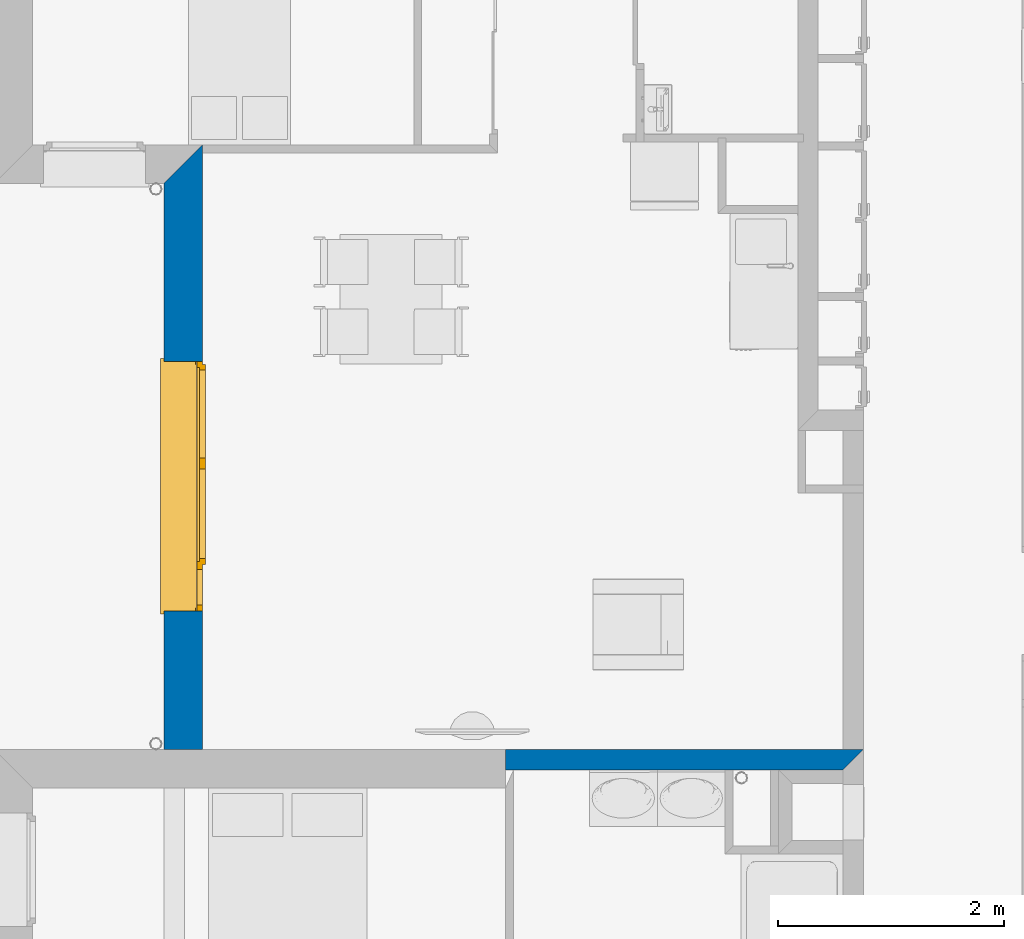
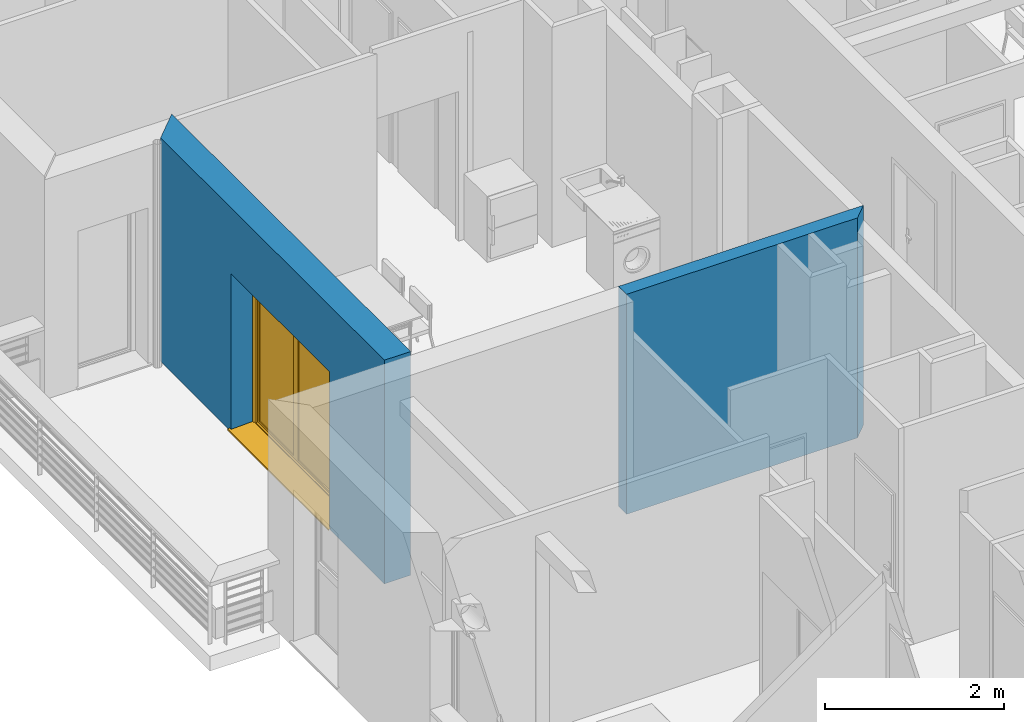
# One storey, part 21 of 165: 2 walls, 1 window, 1 opening.
"""IFC2X3 building model written with IfcOpenShell, lengths in millimetres."""

from ifc_helpers import new_model, entity, si_unit, converted_unit, derived_unit, money_unit, direction, frame, origin_with_axes, place, context, subcontext, project, spatial, polyline, outline, extrude, open_shell, faceted_brep, surface_model, source, transform, mapped, material, layer, layer_set, layer_usage, type_object, element, fill, save


model = new_model("IFC2X3")

# Units and contexts
model_context = context("Model", 3, precision=0.01, world=origin_with_axes(), true_north=direction((0.0, 1.0)))
body_context = subcontext(model_context, "Body", "Model", "MODEL_VIEW")
ifc_project = project(units=[si_unit("LENGTHUNIT", "METRE", prefix="MILLI"), si_unit("AREAUNIT", "SQUARE_METRE"), si_unit("VOLUMEUNIT", "CUBIC_METRE"), converted_unit("PLANEANGLEUNIT", "DEGREE", entity("IfcPlaneAngleMeasure", 0.0174532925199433), si_unit("PLANEANGLEUNIT", "RADIAN"), dimensions=[0, 0, 0, 0, 0, 0, 0]), money_unit("USD"), converted_unit("TIMEUNIT", "Year", entity("IfcTimeMeasure", 31557600.0), si_unit("TIMEUNIT", "SECOND"), dimensions=[0, 0, 1, 0, 0, 0, 0]), si_unit("MASSUNIT", "GRAM", prefix="KILO"), si_unit("THERMODYNAMICTEMPERATUREUNIT", "DEGREE_CELSIUS"), si_unit("LUMINOUSINTENSITYUNIT", "LUMEN"), si_unit("ENERGYUNIT", "JOULE", prefix="MEGA"), derived_unit("THERMALCONDUCTANCEUNIT", [(si_unit("POWERUNIT", "WATT"), 1), (si_unit("LENGTHUNIT", "METRE"), -1), (si_unit("THERMODYNAMICTEMPERATUREUNIT", "KELVIN"), -1)]), derived_unit("SPECIFICHEATCAPACITYUNIT", [(si_unit("ENERGYUNIT", "JOULE"), 1), (si_unit("MASSUNIT", "GRAM", prefix="KILO"), -1), (si_unit("THERMODYNAMICTEMPERATUREUNIT", "KELVIN"), -1)]), derived_unit("MASSDENSITYUNIT", [(si_unit("MASSUNIT", "GRAM", prefix="KILO"), 1), (si_unit("VOLUMEUNIT", "CUBIC_METRE"), -1)])], contexts=[model_context])

# Site, building, storey
site_placement = place(None, origin_with_axes())
site = spatial("IfcSite", under=ifc_project, at=site_placement, Name="Site", CompositionType="ELEMENT")
building_placement = place(site_placement, origin_with_axes())
building = spatial("IfcBuilding", under=site, at=building_placement, Name="Bâtiment", CompositionType="ELEMENT")
storey_placement = place(building_placement, frame((0.0, 0.0, 8500.0), z_axis=(0.0, 0.0, 1.0), x_axis=(1.0, 0.0, 0.0)))
storey = spatial("IfcBuildingStorey", under=building, at=storey_placement, Name="Etage 2", CompositionType="ELEMENT", Elevation=8500.0)

# Wall
ifc_material_1 = material(Name="Parpaing 314940890")
ifc_layer_1 = layer(ifc_material_1, 180.0, ventilated="UNKNOWN")
ifc_layer_set_1 = layer_set([ifc_layer_1], Name="Beton  18 0018356637")
ifc_layer_usage_1 = layer_usage(ifc_layer_set_1, "AXIS2", "NEGATIVE", 0.0)
wall_type_1 = type_object("IfcWallType", Name="Beton  18 0018356637 180", PredefinedType="NOTDEFINED")
wall_1_placement = place(storey_placement, frame((2221152.351167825, -644016.3764661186, 0.0), z_axis=(0.0, 0.0, 1.0), x_axis=(0.9999999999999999, 1.891933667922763e-08, 0.0)))
element("IfcWallStandardCase", 1, at=wall_1_placement, inside=storey, type_object=wall_type_1, material=ifc_layer_usage_1, Name="Mur-142", context=body_context, shape_type="SweptSolid", body=[
    extrude(outline(polyline([(-5.654783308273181e-07, -180.0000000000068), (2979.967185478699, -179.9999999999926), (3159.967188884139, 0.0), (-1.13686837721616e-10, 0.0), (-5.654783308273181e-07, -180.0000000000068)])), origin_with_axes(), (0.0, 0.0, 1.0), 3000.0),
])

# Wall, opening, window
ifc_material_2 = material(Name="Parpaing 312445824")
ifc_layer_2 = layer(ifc_material_2, 180.0, ventilated="UNKNOWN")
ifc_material_3 = material(Name="Isolant styromousse 301821074")
ifc_layer_3 = layer(ifc_material_3, 160.0, ventilated="UNKNOWN")
ifc_layer_set_2 = layer_set([ifc_layer_2, ifc_layer_3], Name="isol int 18+16 0018356637")
ifc_layer_usage_2 = layer_usage(ifc_layer_set_2, "AXIS2", "POSITIVE", 0.0)
wall_type_2 = type_object("IfcWallType", Name="isol int 18+16 0018356637 340", PredefinedType="NOTDEFINED")
wall_2_placement = place(storey_placement, frame((2218134.314050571, -639016.8076992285, 0.0), z_axis=(0.0, 0.0, 1.0), x_axis=(-1.614254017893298e-05, -0.9999999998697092, 0.0)))
wall_2 = element("IfcWallStandardCase", 2, at=wall_2_placement, inside=storey, type_object=wall_type_2, material=ifc_layer_usage_2, Name="Mur-143", context=body_context, shape_type="SweptSolid", body=[
    extrude(outline(polyline([(0.0, 0.0), (4999.568805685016, 0.0), (4999.563312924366, 340.0000000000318), (-340.0054885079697, 339.9999999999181), (0.0, 0.0)])), origin_with_axes(), (0.0, 0.0, 1.0), 3050.0),
])
opening_placement = place(wall_2_placement, frame((2673.994690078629, -1.13686837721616e-10, 0.0), z_axis=(0.0, 0.0, 1.0), x_axis=(1.0, 0.0, 0.0)))
opening = element("IfcOpeningElement", 3, at=opening_placement, cuts=wall_2, Name="Fen-133", context=body_context, shape_type="Brep", body=[
    faceted_brep([(-1100.000000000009, 290.000000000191, 2150.0), (-1100.000000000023, 341.080705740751, 2150.0), (-1100.000000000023, 341.080705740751, 0.0), (-1100.000000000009, 290.000000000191, 0.0), (-1100.000000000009, 280.0000000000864, 2150.0), (-1100.000000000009, 280.0000000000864, 2400.0), (-1100.000000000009, 530.0000000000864, 2400.0), (-1100.000000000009, 530.0000000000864, 2150.0), (1099.99999999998, 341.0807057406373, 2150.0), (1099.99999999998, 341.0807057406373, 0.0), (1099.999999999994, 290.0000000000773, 0.0), (1099.999999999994, -1.080705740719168, 0.0), (-1100.000000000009, -1.080705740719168, 0.0), (-1100.000000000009, -1.080705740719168, 2150.0), (1099.999999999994, 280.0000000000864, 2150.0), (1099.999999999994, 280.0000000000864, 2400.0), (1099.999999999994, 530.0000000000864, 2400.0), (1099.999999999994, 530.0000000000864, 2150.0), (1099.999999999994, 290.0000000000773, 2150.0), (1099.999999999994, -1.080705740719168, 2150.0)], [[[0, 1, 2, 3]], [[1, 0, 4, 5, 6, 7]], [[1, 8, 9, 2]], [[10, 11, 12, 3, 2, 9]], [[4, 0, 3, 12, 13]], [[4, 14, 15, 5]], [[15, 16, 6, 5]], [[16, 17, 7, 6]], [[8, 1, 7, 17]], [[8, 18, 10, 9]], [[18, 14, 19, 11, 10]], [[13, 12, 11, 19]], [[14, 4, 13, 19]], [[18, 8, 17, 16, 15, 14]]]),
])
window_style = type_object("IfcWindowStyle", Name="Fenêtre châssis double variable 27", ConstructionType="NOTDEFINED", OperationType="TRIPLE_PANEL_VERTICAL", ParameterTakesPrecedence=False, Sizeable=False)
shared_shape = source(origin_with_axes(), body_context, "Body", "SurfaceModel", [
    surface_model("IfcShellBasedSurfaceModel", [(1100.0, -51.0, 40.00000000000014), (1100.0, -51.0, 50.00000000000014), (-1100.0, -51.0, 50.0), (-1100.0, -51.0, 40.0), (1130.0, -369.9999999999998, 28.96551724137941), (1130.0, -339.9999999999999, 30.00324289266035), (1100.0, -339.9999999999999, 30.00324289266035), (-1100.0, -339.9999999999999, 30.00324289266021), (-1130.0, -339.9999999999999, 30.00324289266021), (-1130.0, -369.9999999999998, 28.96551724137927), (1130.0, -369.9999999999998, 8.965517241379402), (-1130.0, -369.9999999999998, 8.965517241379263), (1130.0, -359.9999999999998, 18.9655172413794), (-1130.0, -359.9999999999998, 18.96551724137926)], [open_shell([[[0, 1, 2, 3]], [[4, 5, 6, 0, 3, 7, 8, 9]], [[10, 4, 9, 11]], [[12, 10, 11, 13]]])]),
    faceted_brep([(-1100.0, -60.0, 2400.0), (-1097.0, -60.0, 2400.0), (-1097.0, 189.9999999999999, 2400.0), (-1100.0, 189.9999999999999, 2400.0), (-1100.0, -60.0, 2150.0), (-1097.0, -60.0, 2150.0), (-1097.0, 189.9999999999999, 2150.0), (-1100.0, 189.9999999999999, 2150.0)], [[[0, 1, 2, 3]], [[4, 5, 1, 0]], [[1, 5, 6, 2]], [[3, 2, 6, 7]], [[0, 3, 7, 4]], [[7, 6, 5, 4]]]),
    faceted_brep([(1097.0, -59.99999999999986, 2400.0), (1100.0, -59.99999999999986, 2400.0), (1100.0, 190.0000000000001, 2400.0), (1097.0, 190.0000000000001, 2400.0), (1097.0, -59.99999999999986, 2150.0), (1100.0, -59.99999999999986, 2150.0), (1100.0, 190.0000000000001, 2150.0), (1097.0, 190.0000000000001, 2150.0)], [[[0, 1, 2, 3]], [[4, 5, 1, 0]], [[1, 5, 6, 2]], [[3, 2, 6, 7]], [[0, 3, 7, 4]], [[7, 6, 5, 4]]]),
    faceted_brep([(-1097.0, -59.99999999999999, 2150.0), (1097.0, -59.99999999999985, 2150.0), (1097.0, -59.99999999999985, 2400.0), (-1097.0, -59.99999999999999, 2400.0), (-1097.0, -56.99999999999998, 2150.0), (1097.0, -56.99999999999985, 2150.0), (1097.0, -56.99999999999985, 2397.0), (1097.0, 187.0000000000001, 2397.0), (1097.0, 187.0000000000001, 2153.0), (1097.0, -37.99999999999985, 2153.0), (1097.0, -37.99999999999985, 2150.0), (1097.0, 190.0000000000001, 2150.0), (1097.0, 190.0000000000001, 2400.0), (-1097.0, 189.9999999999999, 2400.0), (-1097.0, 189.9999999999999, 2150.0), (-1097.0, -37.99999999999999, 2150.0), (-1097.0, -37.99999999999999, 2153.0), (-1097.0, 187.0, 2153.0), (-1097.0, 187.0, 2397.0), (-1097.0, -56.99999999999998, 2397.0)], [[[0, 1, 2, 3]], [[4, 5, 1, 0]], [[1, 5, 6, 7, 8, 9, 10, 11, 12, 2]], [[3, 2, 12, 13]], [[0, 3, 13, 14, 15, 16, 17, 18, 19, 4]], [[19, 6, 5, 4]], [[18, 7, 6, 19]], [[17, 8, 7, 18]], [[16, 9, 8, 17]], [[15, 10, 9, 16]], [[14, 11, 10, 15]], [[13, 12, 11, 14]]]),
    faceted_brep([(-1094.0, -40.37442957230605, 2256.419644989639), (-1094.0, -41.99999999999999, 2275.0), (-1094.0, -40.37442957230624, 2293.580355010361), (-1094.0, -35.54711042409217, 2311.596155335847), (-1094.0, -27.66471820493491, 2328.5), (-1094.0, -16.96675541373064, 2343.77827423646), (-1094.0, -3.778274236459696, 2356.96675541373), (-1094.0, 11.5, 2367.664718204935), (-1094.0, 28.40384466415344, 2375.547110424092), (-1094.0, 46.41964498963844, 2380.374429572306), (-1094.0, 64.99999999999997, 2382.0), (-1094.0, 83.58035501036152, 2380.374429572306), (-1094.0, 101.5961553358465, 2375.547110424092), (-1094.0, 118.4999999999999, 2367.664718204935), (-1094.0, 133.7782742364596, 2356.96675541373), (-1094.0, 146.9667554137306, 2343.77827423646), (-1094.0, 157.6647182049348, 2328.5), (-1094.0, 165.5471104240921, 2311.596155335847), (-1094.0, 170.3744295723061, 2293.580355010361), (-1094.0, 171.9999999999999, 2275.0), (-1094.0, 170.3744295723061, 2256.419644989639), (-1094.0, 165.5471104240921, 2238.403844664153), (-1094.0, 157.6647182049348, 2221.5), (-1094.0, 146.9667554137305, 2206.22172576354), (-1094.0, 133.7782742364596, 2193.033244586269), (-1094.0, 118.4999999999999, 2182.335281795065), (-1094.0, 101.5961553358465, 2174.452889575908), (-1094.0, 83.58035501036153, 2169.625570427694), (-1094.0, 65.0, 2168.0), (-1094.0, 46.41964498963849, 2169.625570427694), (-1094.0, 28.40384466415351, 2174.452889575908), (-1094.0, 11.5000000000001, 2182.335281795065), (-1094.0, -3.778274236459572, 2193.033244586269), (-1094.0, -16.96675541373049, 2206.22172576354), (-1094.0, -27.66471820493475, 2221.5), (-1094.0, -35.54711042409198, 2238.403844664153), (1094.0, -40.37442957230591, 2256.419644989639), (1094.0, -41.99999999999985, 2275.0), (1094.0, -40.3744295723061, 2293.580355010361), (1094.0, -35.54711042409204, 2311.596155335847), (1094.0, -27.66471820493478, 2328.5), (1094.0, -16.9667554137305, 2343.77827423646), (1094.0, -3.778274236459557, 2356.96675541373), (1094.0, 11.50000000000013, 2367.664718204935), (1094.0, 28.40384466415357, 2375.547110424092), (1094.0, 46.41964498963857, 2380.374429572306), (1094.0, 65.00000000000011, 2382.0), (1094.0, 83.58035501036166, 2380.374429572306), (1094.0, 101.5961553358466, 2375.547110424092), (1094.0, 118.5000000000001, 2367.664718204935), (1094.0, 133.7782742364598, 2356.96675541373), (1094.0, 146.9667554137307, 2343.77827423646), (1094.0, 157.664718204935, 2328.5), (1094.0, 165.5471104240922, 2311.596155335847), (1094.0, 170.3744295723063, 2293.580355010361), (1094.0, 172.0, 2275.0), (1094.0, 170.3744295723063, 2256.419644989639), (1094.0, 165.5471104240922, 2238.403844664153), (1094.0, 157.6647182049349, 2221.5), (1094.0, 146.9667554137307, 2206.22172576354), (1094.0, 133.7782742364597, 2193.033244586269), (1094.0, 118.5000000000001, 2182.335281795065), (1094.0, 101.5961553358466, 2174.452889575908), (1094.0, 83.58035501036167, 2169.625570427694), (1094.0, 65.00000000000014, 2168.0), (1094.0, 46.41964498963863, 2169.625570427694), (1094.0, 28.40384466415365, 2174.452889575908), (1094.0, 11.50000000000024, 2182.335281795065), (1094.0, -3.778274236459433, 2193.033244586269), (1094.0, -16.96675541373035, 2206.22172576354), (1094.0, -27.66471820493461, 2221.5), (1094.0, -35.54711042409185, 2238.403844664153)], [[[0, 1, 2, 3, 4, 5, 6, 7, 8, 9, 10, 11, 12, 13, 14, 15, 16, 17, 18, 19, 20, 21, 22, 23, 24, 25, 26, 27, 28, 29, 30, 31, 32, 33, 34, 35]], [[0, 36, 37, 1]], [[1, 37, 38, 2]], [[2, 38, 39, 3]], [[3, 39, 40, 4]], [[4, 40, 41, 5]], [[5, 41, 42, 6]], [[6, 42, 43, 7]], [[7, 43, 44, 8]], [[8, 44, 45, 9]], [[9, 45, 46, 10]], [[10, 46, 47, 11]], [[11, 47, 48, 12]], [[12, 48, 49, 13]], [[13, 49, 50, 14]], [[14, 50, 51, 15]], [[15, 51, 52, 16]], [[16, 52, 53, 17]], [[17, 53, 54, 18]], [[18, 54, 55, 19]], [[19, 55, 56, 20]], [[20, 56, 57, 21]], [[21, 57, 58, 22]], [[22, 58, 59, 23]], [[23, 59, 60, 24]], [[24, 60, 61, 25]], [[25, 61, 62, 26]], [[26, 62, 63, 27]], [[27, 63, 64, 28]], [[28, 64, 65, 29]], [[29, 65, 66, 30]], [[30, 66, 67, 31]], [[31, 67, 68, 32]], [[32, 68, 69, 33]], [[33, 69, 70, 34]], [[34, 70, 71, 35]], [[35, 71, 36, 0]], [[36, 71, 70, 69, 68, 67, 66, 65, 64, 63, 62, 61, 60, 59, 58, 57, 56, 55, 54, 53, 52, 51, 50, 49, 48, 47, 46, 45, 44, 43, 42, 41, 40, 39, 38, 37]]]),
    faceted_brep([(1100.0, -34.99999999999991, 30.0), (1100.0, -34.99999999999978, 2150.0), (1100.0, -59.99999999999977, 2150.0), (1100.0, -59.99999999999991, 30.0), (1075.0, -34.99999999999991, 30.0), (1075.0, -34.99999999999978, 2150.0), (1075.0, -37.99999999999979, 2150.0), (1097.0, -37.99999999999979, 2150.0), (1097.0, -56.99999999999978, 2150.0), (1075.0, -56.99999999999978, 2150.0), (1075.0, -59.99999999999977, 2150.0), (1075.0, -59.99999999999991, 30.0), (1075.0, -56.99999999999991, 30.0), (1097.0, -56.99999999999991, 30.0), (1097.0, -37.99999999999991, 30.0), (1075.0, -37.99999999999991, 30.0)], [[[0, 1, 2, 3]], [[4, 5, 1, 0]], [[1, 5, 6, 7, 8, 9, 10, 2]], [[3, 2, 10, 11]], [[0, 3, 11, 12, 13, 14, 15, 4]], [[15, 6, 5, 4]], [[14, 7, 6, 15]], [[13, 8, 7, 14]], [[12, 9, 8, 13]], [[11, 10, 9, 12]]]),
    faceted_brep([(-1100.0, -34.99999999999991, 30.0), (-1100.0, -59.99999999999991, 30.0), (-1100.0, -59.99999999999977, 2150.0), (-1100.0, -34.99999999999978, 2150.0), (-1075.0, -34.99999999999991, 30.0), (-1075.0, -37.99999999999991, 30.0), (-1097.0, -37.99999999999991, 30.0), (-1097.0, -56.99999999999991, 30.0), (-1075.0, -56.99999999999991, 30.0), (-1075.0, -59.99999999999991, 30.0), (-1075.0, -59.99999999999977, 2150.0), (-1075.0, -56.99999999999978, 2150.0), (-1097.0, -56.99999999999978, 2150.0), (-1097.0, -37.99999999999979, 2150.0), (-1075.0, -37.99999999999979, 2150.0), (-1075.0, -34.99999999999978, 2150.0)], [[[0, 1, 2, 3]], [[0, 4, 5, 6, 7, 8, 9, 1]], [[1, 9, 10, 2]], [[3, 2, 10, 11, 12, 13, 14, 15]], [[4, 0, 3, 15]], [[5, 4, 15, 14]], [[6, 5, 14, 13]], [[7, 6, 13, 12]], [[8, 7, 12, 11]], [[9, 8, 11, 10]]]),
    faceted_brep([(1097.0, -46.6666666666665, 2275.0), (1097.0, -46.6666666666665, 2266.666666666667), (-1097.0, -46.66666666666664, 2266.666666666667), (-1097.0, -46.66666666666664, 2275.0), (1097.0, -51.66666666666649, 2275.0), (1097.0, -51.66666666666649, 2266.666666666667), (1097.0, -49.99999999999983, 2250.0), (1097.0, -44.99999999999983, 2250.0), (-1097.0, -44.99999999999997, 2250.0), (-1097.0, -49.99999999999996, 2250.0), (-1097.0, -51.66666666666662, 2266.666666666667), (-1097.0, -51.66666666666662, 2275.0)], [[[0, 1, 2, 3]], [[4, 5, 6, 7, 1, 0]], [[2, 1, 7, 8]], [[3, 2, 8, 9, 10, 11]], [[3, 11, 4, 0]], [[10, 5, 4, 11]], [[9, 6, 5, 10]], [[8, 7, 6, 9]]]),
    faceted_brep([(-1097.0, -44.99999999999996, 2250.0), (1097.0, -44.99999999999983, 2250.0), (1097.0, -46.6666666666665, 2233.333333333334), (-1097.0, -46.66666666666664, 2233.333333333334), (-1097.0, -49.99999999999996, 2250.0), (1097.0, -49.99999999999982, 2250.0), (1097.0, -51.66666666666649, 2233.333333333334), (1097.0, -51.66666666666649, 2216.666666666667), (1097.0, -49.99999999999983, 2200.0), (1097.0, -44.99999999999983, 2200.0), (1097.0, -46.6666666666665, 2216.666666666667), (-1097.0, -46.66666666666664, 2216.666666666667), (-1097.0, -44.99999999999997, 2200.0), (-1097.0, -49.99999999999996, 2200.0), (-1097.0, -51.66666666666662, 2216.666666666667), (-1097.0, -51.66666666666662, 2233.333333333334)], [[[0, 1, 2, 3]], [[4, 5, 1, 0]], [[1, 5, 6, 7, 8, 9, 10, 2]], [[3, 2, 10, 11]], [[0, 3, 11, 12, 13, 14, 15, 4]], [[15, 6, 5, 4]], [[14, 7, 6, 15]], [[13, 8, 7, 14]], [[12, 9, 8, 13]], [[11, 10, 9, 12]]]),
    faceted_brep([(-1097.0, -44.99999999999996, 2200.0), (1097.0, -44.99999999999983, 2200.0), (1097.0, -46.6666666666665, 2183.333333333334), (-1097.0, -46.66666666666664, 2183.333333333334), (-1097.0, -49.99999999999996, 2200.0), (1097.0, -49.99999999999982, 2200.0), (1097.0, -51.66666666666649, 2183.333333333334), (1097.0, -51.66666666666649, 2166.666666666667), (1097.0, -49.99999999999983, 2150.000000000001), (1097.0, -44.99999999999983, 2150.000000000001), (1097.0, -46.6666666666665, 2166.666666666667), (-1097.0, -46.66666666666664, 2166.666666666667), (-1097.0, -44.99999999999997, 2150.000000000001), (-1097.0, -49.99999999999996, 2150.000000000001), (-1097.0, -51.66666666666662, 2166.666666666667), (-1097.0, -51.66666666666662, 2183.333333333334)], [[[0, 1, 2, 3]], [[4, 5, 1, 0]], [[1, 5, 6, 7, 8, 9, 10, 2]], [[3, 2, 10, 11]], [[0, 3, 11, 12, 13, 14, 15, 4]], [[15, 6, 5, 4]], [[14, 7, 6, 15]], [[13, 8, 7, 14]], [[12, 9, 8, 13]], [[11, 10, 9, 12]]]),
    faceted_brep([(-1075.0, 0.0, 2100.0), (-1100.0, 0.0, 2100.0), (-1100.0, -50.00000000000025, 2100.0), (-1050.0, -50.00000000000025, 2100.0), (-1050.0, -25.00000000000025, 2100.0), (-1075.0, -25.00000000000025, 2100.0), (-1075.0, 0.0, 50.00000000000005), (-1100.0, 0.0, 50.00000000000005), (-1100.0, -49.99999999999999, 50.00000000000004), (-1050.0, -49.99999999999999, 50.00000000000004), (-1050.0, -25.0, 50.00000000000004), (-1075.0, -25.0, 50.00000000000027)], [[[0, 1, 2, 3, 4, 5]], [[6, 7, 1, 0]], [[1, 7, 8, 2]], [[2, 8, 9, 3]], [[4, 3, 9, 10]], [[10, 11, 5, 4]], [[5, 11, 6, 0]], [[11, 10, 9, 8, 7, 6]]]),
    faceted_brep([(664.9999999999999, -25.00000000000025, 2100.0), (664.9999999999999, -50.00000000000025, 2100.0), (735.0, -50.00000000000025, 2100.0), (735.0, 0.0, 2100.0), (690.0, 0.0, 2100.0), (690.0, -25.00000000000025, 2100.0), (664.9999999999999, -25.0, 50.00000000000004), (664.9999999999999, -49.99999999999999, 50.00000000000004), (735.0, -49.99999999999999, 50.00000000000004), (735.0, 0.0, 50.00000000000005), (690.0, 0.0, 50.00000000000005), (690.0, -25.0, 50.00000000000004)], [[[0, 1, 2, 3, 4, 5]], [[6, 7, 1, 0]], [[8, 2, 1, 7]], [[9, 3, 2, 8]], [[4, 3, 9, 10]], [[10, 11, 5, 4]], [[5, 11, 6, 0]], [[11, 10, 9, 8, 7, 6]]]),
    faceted_brep([(664.9999999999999, -25.0, 50.00000000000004), (664.9999999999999, -49.99999999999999, 50.00000000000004), (735.0, -49.99999999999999, 50.00000000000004), (735.0, 0.0, 50.00000000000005), (690.0, 0.0, 50.00000000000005), (690.0, -25.0, 50.00000000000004), (-1050.0, -25.0, 50.00000000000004), (-1050.0, -49.99999999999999, 50.00000000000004), (-1100.0, -49.99999999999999, 50.00000000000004), (-1100.0, -49.99999999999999, 0.0), (1100.0, -49.99999999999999, 0.0), (1100.0, -49.99999999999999, 50.00000000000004), (1050.0, -49.99999999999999, 50.00000000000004), (1050.0, 0.0, 50.00000000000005), (-1075.0, 0.0, 24.99999999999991), (690.0, 0.0, 24.99999999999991), (1100.0, 0.0, 50.00000000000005), (1100.0, 0.0, 0.0), (-1100.0, 0.0, 0.0), (-1100.0, 0.0, 50.00000000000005), (-1075.0, 0.0, 50.00000000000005), (690.0, -25.0, 24.99999999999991), (-1075.0, -25.0, 24.99999999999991), (-1075.0, -25.0, 50.00000000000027)], [[[0, 1, 2, 3, 4, 5]], [[6, 7, 1, 0]], [[8, 9, 10, 11, 12, 2, 1, 7]], [[13, 3, 2, 12]], [[14, 15, 4, 3, 13, 16, 17, 18, 19, 20]], [[15, 21, 5, 4]], [[5, 21, 22, 23, 6, 0]], [[23, 20, 19, 8, 7, 6]], [[19, 18, 9, 8]], [[18, 17, 10, 9]], [[17, 16, 11, 10]], [[16, 13, 12, 11]], [[14, 22, 21, 15]], [[23, 22, 14, 20]]]),
    faceted_brep([(-1075.0, 0.0, 2100.0), (-1100.0, 0.0, 2100.0), (-1100.0, 0.0, 2150.0), (1100.0, 0.0, 2150.0), (1100.0, 0.0, 2100.0), (1050.0, 0.0, 2100.0), (735.0, 0.0, 2100.0), (690.0, 0.0, 2100.0), (690.0, 0.0, 2125.0), (-1075.0, 0.0, 2125.0), (-1075.0, -25.00000000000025, 2100.0), (-1050.0, -25.00000000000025, 2100.0), (-1050.0, -50.00000000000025, 2100.0), (-1100.0, -50.00000000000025, 2100.0), (-1100.0, -50.00000000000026, 2150.0), (1100.0, -50.00000000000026, 2150.0), (1100.0, -50.00000000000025, 2100.0), (1050.0, -50.00000000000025, 2100.0), (735.0, -50.00000000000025, 2100.0), (690.0, -25.00000000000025, 2100.0), (664.9999999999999, -50.00000000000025, 2100.0), (664.9999999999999, -25.00000000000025, 2100.0), (690.0, -25.00000000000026, 2125.0), (-1075.0, -25.00000000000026, 2125.0)], [[[0, 1, 2, 3, 4, 5, 6, 7, 8, 9]], [[10, 11, 12, 13, 1, 0]], [[2, 1, 13, 14]], [[3, 2, 14, 15]], [[4, 3, 15, 16]], [[5, 4, 16, 17]], [[6, 5, 17, 18]], [[19, 7, 6, 18, 20, 21]], [[7, 19, 22, 8]], [[8, 22, 23, 9]], [[9, 23, 10, 0]], [[21, 11, 10, 23, 22, 19]], [[21, 20, 12, 11]], [[18, 17, 16, 15, 14, 13, 12, 20]]]),
    faceted_brep([(1050.0, -49.99999999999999, 50.0), (1050.0, 0.0, 50.00000000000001), (1100.0, 0.0, 50.00000000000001), (1100.0, -49.99999999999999, 50.0), (1050.0, -50.00000000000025, 2100.0), (1050.0, 0.0, 2100.0), (1100.0, 0.0, 2100.0), (1100.0, -50.00000000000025, 2100.0)], [[[0, 1, 2, 3]], [[4, 5, 1, 0]], [[1, 5, 6, 2]], [[3, 2, 6, 7]], [[0, 3, 7, 4]], [[7, 6, 5, 4]]]),
    faceted_brep([(-1025.0, -25.00000000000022, 2075.0), (-1025.0, 24.99999999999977, 2075.0), (-1075.0, 24.99999999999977, 2075.0), (-1075.0, -25.00000000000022, 2075.0), (-1025.0, -24.99999999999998, 75.00000000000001), (-1025.0, 25.00000000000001, 75.00000000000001), (-1075.0, 25.00000000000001, 75.00000000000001), (-1075.0, -24.99999999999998, 75.00000000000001)], [[[0, 1, 2, 3]], [[4, 5, 1, 0]], [[1, 5, 6, 2]], [[3, 2, 6, 7]], [[0, 3, 7, 4]], [[7, 6, 5, 4]]]),
    faceted_brep([(-249.9999999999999, -25.00000000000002, 75.00000000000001), (-249.9999999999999, 24.99999999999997, 75.00000000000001), (-199.9999999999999, 24.99999999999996, 75.00000000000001), (-199.9999999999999, -25.00000000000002, 75.00000000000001), (-249.9999999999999, -25.00000000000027, 2075.0), (-249.9999999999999, 24.99999999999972, 2075.0), (-199.9999999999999, 24.99999999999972, 2075.0), (-199.9999999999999, -25.00000000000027, 2075.0)], [[[0, 1, 2, 3]], [[4, 5, 1, 0]], [[1, 5, 6, 2]], [[3, 2, 6, 7]], [[0, 3, 7, 4]], [[7, 6, 5, 4]]]),
    faceted_brep([(-199.9999999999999, -25.00000000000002, 25.0), (-199.9999999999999, 24.99999999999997, 25.00000000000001), (-199.9999999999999, 24.99999999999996, 75.00000000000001), (-199.9999999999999, -25.00000000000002, 75.00000000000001), (-1075.0, -24.99999999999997, 25.0), (-1075.0, 25.00000000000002, 25.00000000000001), (-1075.0, 25.00000000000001, 75.00000000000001), (-1025.0, 25.00000000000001, 75.00000000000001), (-249.9999999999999, 24.99999999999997, 75.00000000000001), (-249.9999999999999, -25.00000000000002, 75.00000000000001), (-1025.0, -24.99999999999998, 75.00000000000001), (-1075.0, -24.99999999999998, 75.00000000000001)], [[[0, 1, 2, 3]], [[4, 5, 1, 0]], [[1, 5, 6, 7, 8, 2]], [[3, 2, 8, 9]], [[0, 3, 9, 10, 11, 4]], [[11, 6, 5, 4]], [[10, 7, 6, 11]], [[9, 8, 7, 10]]]),
    faceted_brep([(-1075.0, -25.00000000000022, 2125.0), (-1075.0, 24.99999999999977, 2125.0), (-1075.0, 24.99999999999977, 2075.0), (-1075.0, -25.00000000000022, 2075.0), (-199.9999999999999, -25.00000000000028, 2125.0), (-199.9999999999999, 24.99999999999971, 2125.0), (-199.9999999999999, 24.99999999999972, 2075.0), (-249.9999999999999, 24.99999999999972, 2075.0), (-1025.0, 24.99999999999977, 2075.0), (-1025.0, -25.00000000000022, 2075.0), (-249.9999999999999, -25.00000000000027, 2075.0), (-199.9999999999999, -25.00000000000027, 2075.0)], [[[0, 1, 2, 3]], [[4, 5, 1, 0]], [[1, 5, 6, 7, 8, 2]], [[3, 2, 8, 9]], [[0, 3, 9, 10, 11, 4]], [[11, 6, 5, 4]], [[10, 7, 6, 11]], [[9, 8, 7, 10]]]),
    surface_model("IfcShellBasedSurfaceModel", [(-1025.0, -10.00000000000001, 75.00000000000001), (-249.9999999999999, -10.00000000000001, 75.00000000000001), (-249.9999999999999, -10.00000000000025, 2075.0), (-1025.0, -10.00000000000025, 2075.0)], [open_shell([[[0, 1, 2, 3]]])]),
    surface_model("IfcShellBasedSurfaceModel", [(-1025.0, 9.999999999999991, 75.00000000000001), (-1025.0, 9.99999999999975, 2075.0), (-249.9999999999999, 9.99999999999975, 2075.0), (-249.9999999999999, 9.999999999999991, 75.00000000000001)], [open_shell([[[0, 1, 2, 3]]])]),
    faceted_brep([(-149.9999999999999, -25.00000000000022, 2075.0), (-149.9999999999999, 24.99999999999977, 2075.0), (-199.9999999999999, 24.99999999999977, 2075.0), (-199.9999999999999, -25.00000000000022, 2075.0), (-149.9999999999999, -24.99999999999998, 75.00000000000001), (-149.9999999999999, 25.00000000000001, 75.00000000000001), (-199.9999999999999, 25.00000000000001, 75.00000000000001), (-199.9999999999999, -24.99999999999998, 75.00000000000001)], [[[0, 1, 2, 3]], [[4, 5, 1, 0]], [[1, 5, 6, 2]], [[3, 2, 6, 7]], [[0, 3, 7, 4]], [[7, 6, 5, 4]]]),
    faceted_brep([(640.0, -25.00000000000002, 75.00000000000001), (640.0, 24.99999999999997, 75.00000000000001), (690.0, 24.99999999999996, 75.00000000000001), (690.0, -25.00000000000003, 75.00000000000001), (640.0, -25.00000000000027, 2075.0), (640.0, 24.99999999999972, 2075.0), (690.0, 24.99999999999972, 2075.0), (690.0, -25.00000000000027, 2075.0)], [[[0, 1, 2, 3]], [[4, 5, 1, 0]], [[1, 5, 6, 2]], [[3, 2, 6, 7]], [[0, 3, 7, 4]], [[7, 6, 5, 4]]]),
    faceted_brep([(690.0, -25.00000000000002, 25.0), (690.0, 24.99999999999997, 25.00000000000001), (690.0, 24.99999999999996, 75.00000000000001), (690.0, -25.00000000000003, 75.00000000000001), (-199.9999999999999, -24.99999999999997, 25.0), (-199.9999999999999, 25.00000000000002, 25.00000000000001), (-199.9999999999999, 25.00000000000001, 75.00000000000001), (-149.9999999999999, 25.00000000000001, 75.00000000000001), (640.0, 24.99999999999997, 75.00000000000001), (640.0, -25.00000000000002, 75.00000000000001), (-149.9999999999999, -24.99999999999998, 75.00000000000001), (-199.9999999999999, -24.99999999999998, 75.00000000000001)], [[[0, 1, 2, 3]], [[4, 5, 1, 0]], [[1, 5, 6, 7, 8, 2]], [[3, 2, 8, 9]], [[0, 3, 9, 10, 11, 4]], [[11, 6, 5, 4]], [[10, 7, 6, 11]], [[9, 8, 7, 10]]]),
    faceted_brep([(-199.9999999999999, -25.00000000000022, 2125.0), (-199.9999999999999, 24.99999999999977, 2125.0), (-199.9999999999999, 24.99999999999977, 2075.0), (-199.9999999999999, -25.00000000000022, 2075.0), (690.0, -25.00000000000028, 2125.0), (690.0, 24.99999999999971, 2125.0), (690.0, 24.99999999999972, 2075.0), (640.0, 24.99999999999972, 2075.0), (-149.9999999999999, 24.99999999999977, 2075.0), (-149.9999999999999, -25.00000000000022, 2075.0), (640.0, -25.00000000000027, 2075.0), (690.0, -25.00000000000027, 2075.0)], [[[0, 1, 2, 3]], [[4, 5, 1, 0]], [[1, 5, 6, 7, 8, 2]], [[3, 2, 8, 9]], [[0, 3, 9, 10, 11, 4]], [[11, 6, 5, 4]], [[10, 7, 6, 11]], [[9, 8, 7, 10]]]),
    surface_model("IfcShellBasedSurfaceModel", [(-149.9999999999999, -10.00000000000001, 75.00000000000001), (640.0, -10.00000000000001, 75.00000000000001), (640.0, -10.00000000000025, 2075.0), (-149.9999999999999, -10.00000000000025, 2075.0)], [open_shell([[[0, 1, 2, 3]]])]),
    surface_model("IfcShellBasedSurfaceModel", [(-149.9999999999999, 9.999999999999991, 75.00000000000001), (-149.9999999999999, 9.99999999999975, 2075.0), (640.0, 9.99999999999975, 2075.0), (640.0, 9.999999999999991, 75.00000000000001)], [open_shell([[[0, 1, 2, 3]]])]),
    surface_model("IfcShellBasedSurfaceModel", [(735.0, -34.99999999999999, 49.99999999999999), (1050.0, -34.99999999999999, 49.99999999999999), (1050.0, -35.00000000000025, 2100.0), (735.0, -35.00000000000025, 2100.0)], [open_shell([[[0, 1, 2, 3]]])]),
    surface_model("IfcShellBasedSurfaceModel", [(735.0, -15.0, 49.99999999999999), (735.0, -15.00000000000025, 2100.0), (1050.0, -15.00000000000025, 2100.0), (1050.0, -15.0, 49.99999999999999)], [open_shell([[[0, 1, 2, 3]]])]),
])
window_placement = place(opening_placement, frame((-1099.99999999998, 2.273736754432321e-10, 0.0), z_axis=(0.0, 0.0, 1.0), x_axis=(1.0, 0.0, 0.0)))
window = element("IfcWindow", 4, at=window_placement, inside=storey, type_object=window_style, Name="Fen-133", OverallHeight=2150.0, OverallWidth=2200.0, context=body_context, shape_type="MappedRepresentation", body=[
    mapped(shared_shape, transform((1099.999999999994, 339.9999999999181, 0.0))),
])
fill(opening, window)

save(model, "model.ifc")
